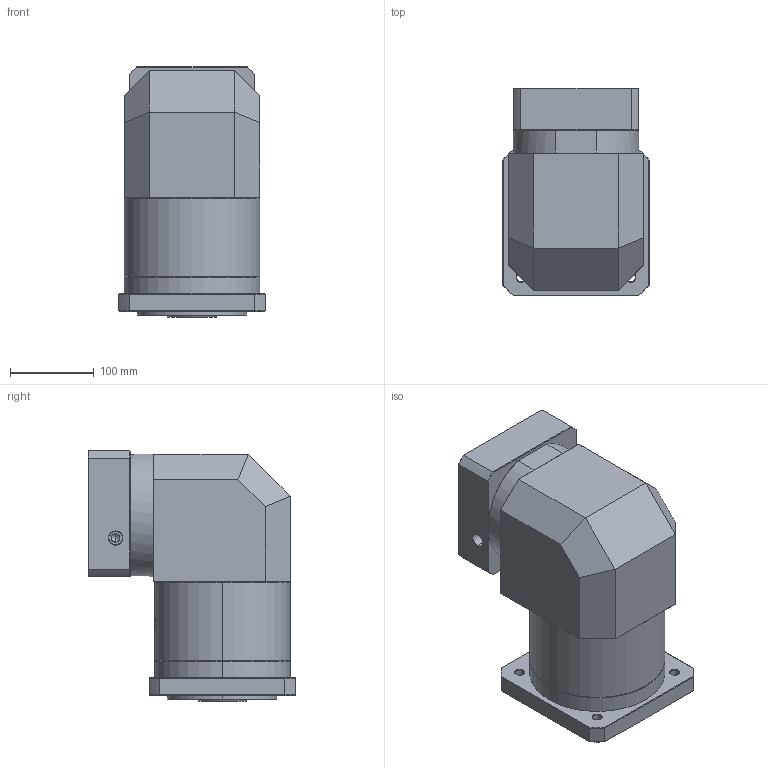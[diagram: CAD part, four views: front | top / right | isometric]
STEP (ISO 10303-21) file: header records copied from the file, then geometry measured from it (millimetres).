
FILE_DESCRIPTION (( 'STEP AP214' ), '1' );
FILE_NAME ('ZFR160A-K35-L2-P2-28-130-165-M10.step', '2023-09-03T09:01:53', ( '' ), ( '' ), 'SwSTEP 2.0', 'SolidWorks 2016', '' );
FILE_SCHEMA (( 'AUTOMOTIVE_DESIGN' ));
Length unit declared in the file: millimetre
Products named in the file (1): ZFR160A-K35-L2-P2-28-130-165-M10
Bounding box: 175 x 247.5 x 298.7 mm (x, y, z)
Volume: 7293534.6 mm3; surface area: 455149.7 mm2
Topology: 6 solids, 6 shells, 2146 faces, 5672 edges, 3632 vertices
Faces by surface type: plane 1041, bspline 407, cylinder 377, cone 301, torus 20
Entity records: 119953 total; most frequent: CARTESIAN_POINT 48388, ORIENTED_EDGE 11288, DIRECTION 8174, EDGE_CURVE 5644, VERTEX_POINT 3632, LINE 3032, VECTOR 3032, AXIS2_PLACEMENT_3D 2571
